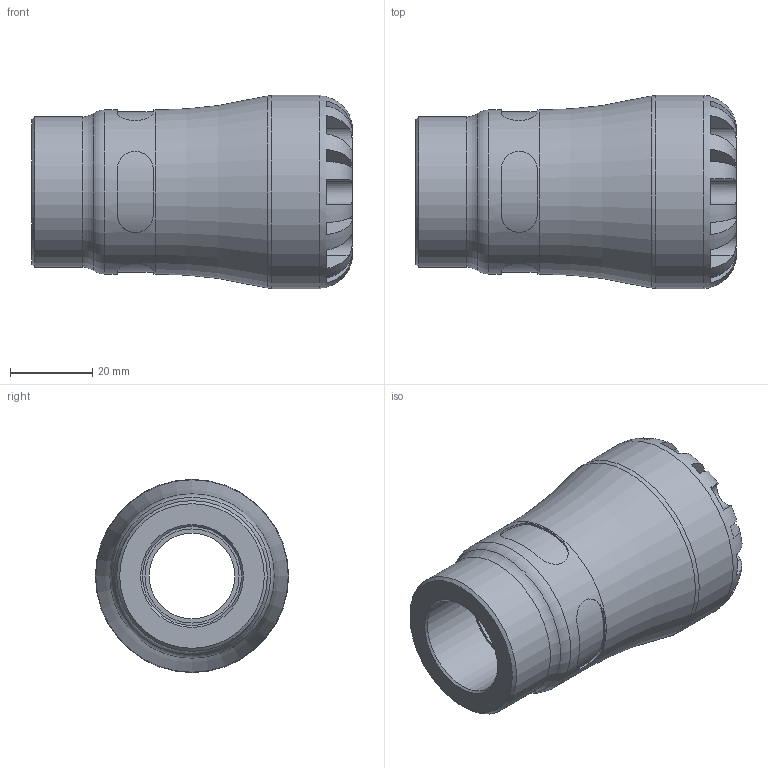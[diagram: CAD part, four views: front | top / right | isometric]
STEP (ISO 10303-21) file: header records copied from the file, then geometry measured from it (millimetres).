
FILE_DESCRIPTION(/* description */ ('PLASSON FEMALE INTEGRAL BRASS THREAD 25X3/4" SERIES 1'),/* implementation_level */ '2;1');
FILE_NAME(/* name */ 'C:\Dropbox\KIMPROJECTS-Inventor\99-16-3568-Processing\1073\107300025007_197300025007.ipt.stp',/* time_stamp */ '2017-01-22T11:35:24+02:00',/* author */ ('KIM'),/* organization */ (''),/* preprocessor_version */ 'ST-DEVELOPER v15.6',/* originating_system */ 'Autodesk Inventor 2015',/* authorisation */ '');
FILE_SCHEMA (('AUTOMOTIVE_DESIGN { 1 0 10303 214 3 1 1 }'));
Length unit declared in the file: millimetre
Products named in the file (1): 107300025007_197300025007
Bounding box: 78 x 47 x 47 mm (x, y, z)
Volume: 68132.5 mm3; surface area: 19072.4 mm2
Topology: 1 solids, 1 shells, 104 faces, 255 edges, 159 vertices
Faces by surface type: plane 61, cylinder 35, torus 5, cone 3
Full cylindrical faces by diameter (mm): 20.833 x1, 22.911 x1, 24.117 x1, 25 x1, 36.66 x1, 39.95 x1, 47 x1
Entity records: 3752 total; most frequent: CARTESIAN_POINT 1417, DIRECTION 472, ORIENTED_EDGE 470, EDGE_CURVE 235, AXIS2_PLACEMENT_3D 196, VERTEX_POINT 155, EDGE_LOOP 128, FACE_OUTER_BOUND 104
